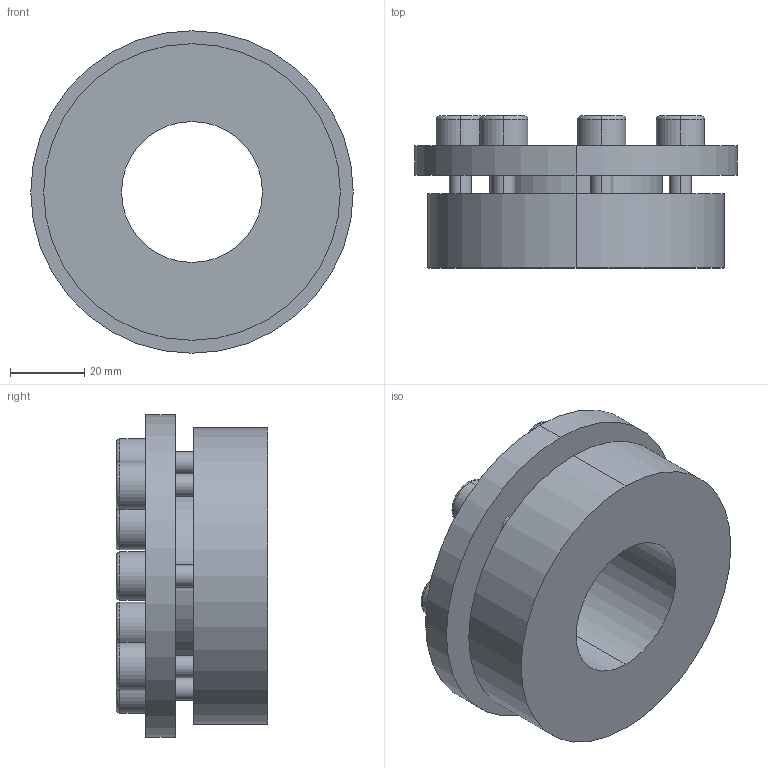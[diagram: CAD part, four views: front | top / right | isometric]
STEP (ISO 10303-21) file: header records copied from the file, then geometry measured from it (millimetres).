
FILE_DESCRIPTION (( 'STEP AP203' ), '1' );
FILE_NAME ('PL-H4 38-80.STEP', '2021-10-23T01:20:57', ( '' ), ( '' ), 'SwSTEP 2.0', 'SolidWorks 2018', '' );
FILE_SCHEMA (( 'CONFIG_CONTROL_DESIGN' ));
Length unit declared in the file: millimetre
Products named in the file (1): PL-H4 38-80
Bounding box: 87 x 41 x 87 mm (x, y, z)
Volume: 126607.7 mm3; surface area: 31181 mm2
Topology: 1 solids, 1 shells, 110 faces, 262 edges, 170 vertices
Faces by surface type: plane 60, cylinder 36, torus 14
Entity records: 3303 total; most frequent: DIRECTION 584, CARTESIAN_POINT 543, ORIENTED_EDGE 524, EDGE_CURVE 262, AXIS2_PLACEMENT_3D 211, VERTEX_POINT 170, LINE 162, VECTOR 162
